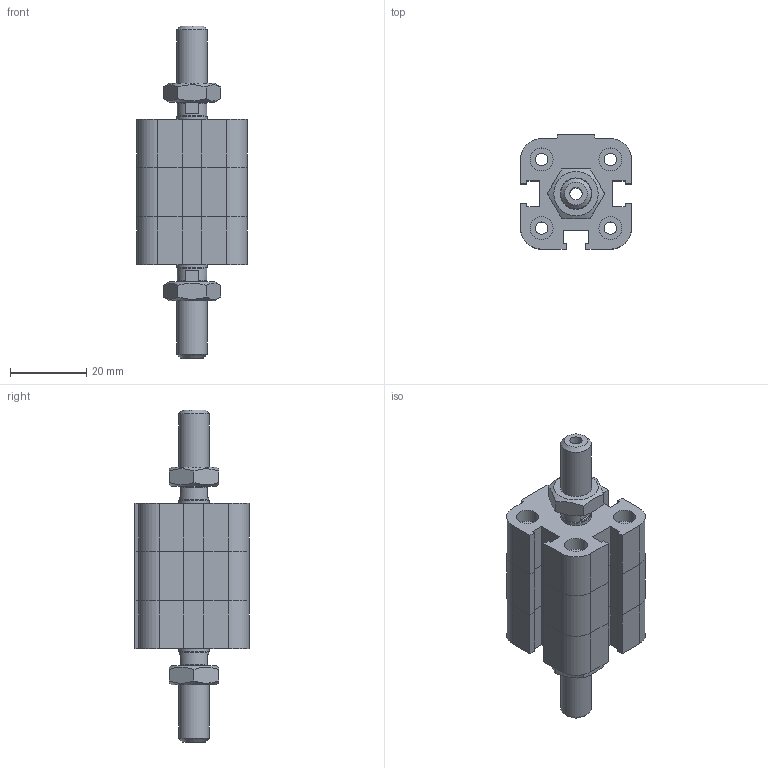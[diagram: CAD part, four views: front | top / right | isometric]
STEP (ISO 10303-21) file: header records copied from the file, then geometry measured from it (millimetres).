
FILE_DESCRIPTION((''),'2;1');
FILE_NAME('I:\Area Tecnica\Disegni\VARIE-3D\Componenti\EUROPE\15##_###_####_05_#\1581_16_0000_05_1.iam.stp','2009-04-20T14:59:02',(''),(''),'Autodesk Inventor 2009','Autodesk Inventor 2009','');
FILE_SCHEMA(('AUTOMOTIVE_DESIGN { 1 0 10303 214 1 1 1 1 }'));
Length unit declared in the file: millimetre
Products named in the file (4): 1581_16_0000_05_1; 1581_16_0000_03_1_C; 1561_16_0000_05_1_S; DBM8
Assembly tree (4 placements, depth 2):
  1581_16_0000_05_1
    1581_16_0000_03_1_C
    1561_16_0000_05_1_S
    DBM8  x2
Bounding box: 29 x 30 x 87 mm (x, y, z)
Volume: 28469.5 mm3; surface area: 13915.6 mm2
Topology: 4 solids, 4 shells, 191 faces, 428 edges, 257 vertices
Faces by surface type: plane 125, bspline 32, cylinder 21, cone 13
Full cylindrical faces by diameter (mm): 6 x4, 6.5 x1, 7.8 x2, 8 x2
Entity records: 5066 total; most frequent: CARTESIAN_POINT 1155, DIRECTION 732, ORIENTED_EDGE 716, EDGE_CURVE 358, VECTOR 258, LINE 258, EDGE_LOOP 238, AXIS2_PLACEMENT_3D 237
